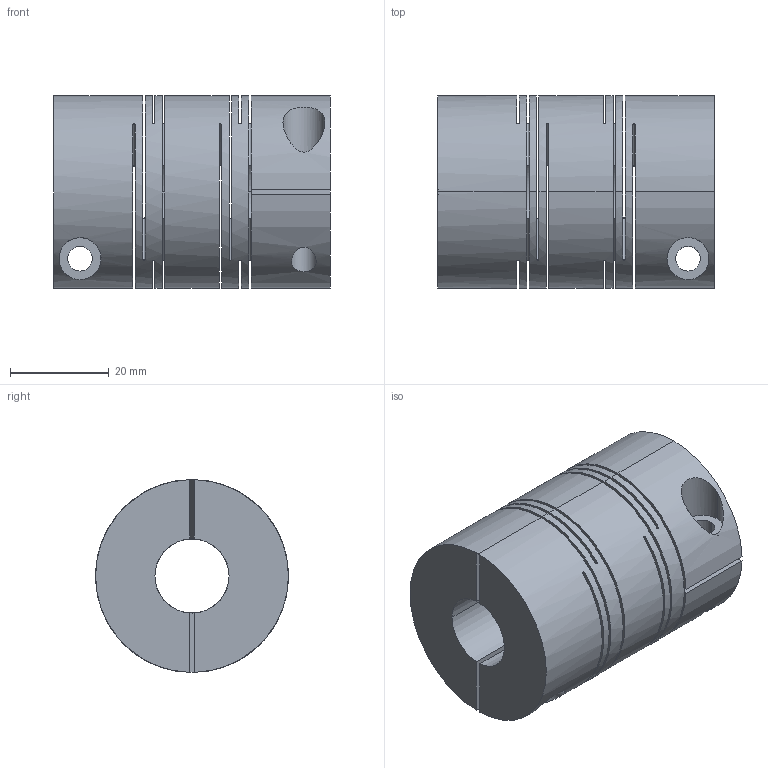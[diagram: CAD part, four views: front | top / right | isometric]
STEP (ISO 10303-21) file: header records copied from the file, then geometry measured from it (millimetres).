
FILE_DESCRIPTION(('Unknown'),'2;1');
FILE_NAME('','Unknown',('Unknown'),('Unknown'),'','Unknown','');
FILE_SCHEMA(('CONFIG_CONTROL_DESIGN'));
Length unit declared in the file: millimetre
Bounding box: 56 x 39 x 39 mm (x, y, z)
Volume: 51864.6 mm3; surface area: 25050.7 mm2
Topology: 1 solids, 1 shells, 80 faces, 267 edges, 177 vertices
Faces by surface type: cylinder 42, plane 38
Entity records: 5566 total; most frequent: CARTESIAN_POINT 3073, ORIENTED_EDGE 534, DIRECTION 506, EDGE_CURVE 267, AXIS2_PLACEMENT_3D 198, VERTEX_POINT 177, CIRCLE 114, LINE 110
